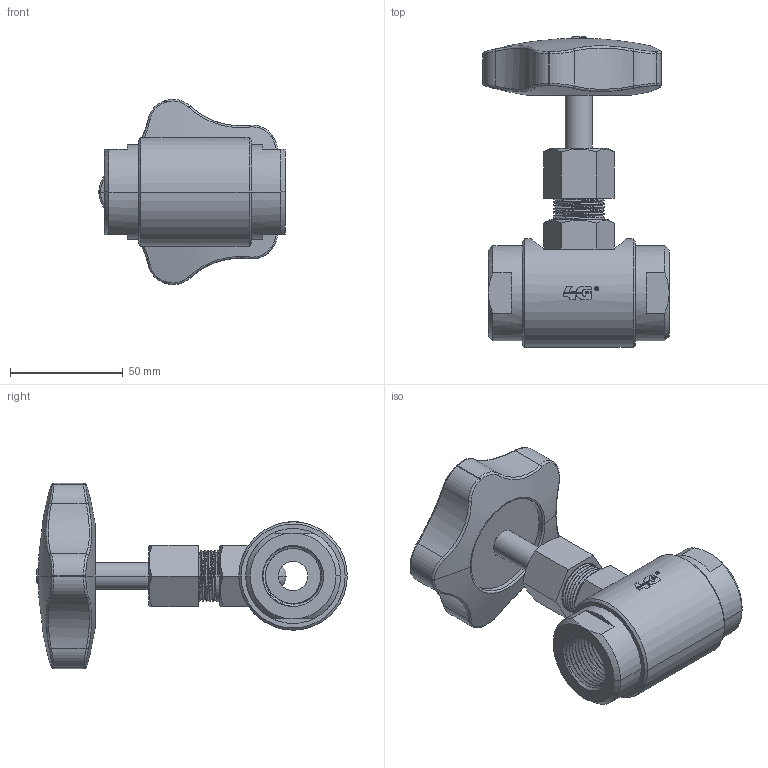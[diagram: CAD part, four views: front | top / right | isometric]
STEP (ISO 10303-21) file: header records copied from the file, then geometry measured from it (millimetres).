
FILE_DESCRIPTION((''),'2;1');
FILE_NAME('67800162000','2019-05-15T16:19:20',('UFFICIO TECNICO'),('CDM Tecnoconsulting'),'CREO PARAMETRIC BY PTC INC, 2018050','CREO PARAMETRIC BY PTC INC, 2018050','');
FILE_SCHEMA(('CONFIG_CONTROL_DESIGN','SHAPE_APPEARANCE_LAYERS_GROUPS'));
Length unit declared in the file: millimetre
Products named in the file (1): 67800162000
Bounding box: 82.5 x 137.5 x 82.01 mm (x, y, z)
Surface area: 44024.3 mm2 (no closed solid volume)
Topology: 0 solids, 23 shells, 320 faces, 1006 edges, 708 vertices
Faces by surface type: cylinder 117, plane 73, bspline 62, cone 30, torus 18, extrusion 14, sphere 6
Entity records: 35220 total; most frequent: CARTESIAN_POINT 24237, ORIENTED_EDGE 1724, DIRECTION 1272, PRESENTATION_STYLE_ASSIGNMENT 1012, STYLED_ITEM 1012, CURVE_STYLE 1004, EDGE_CURVE 1004, VERTEX_POINT 708
